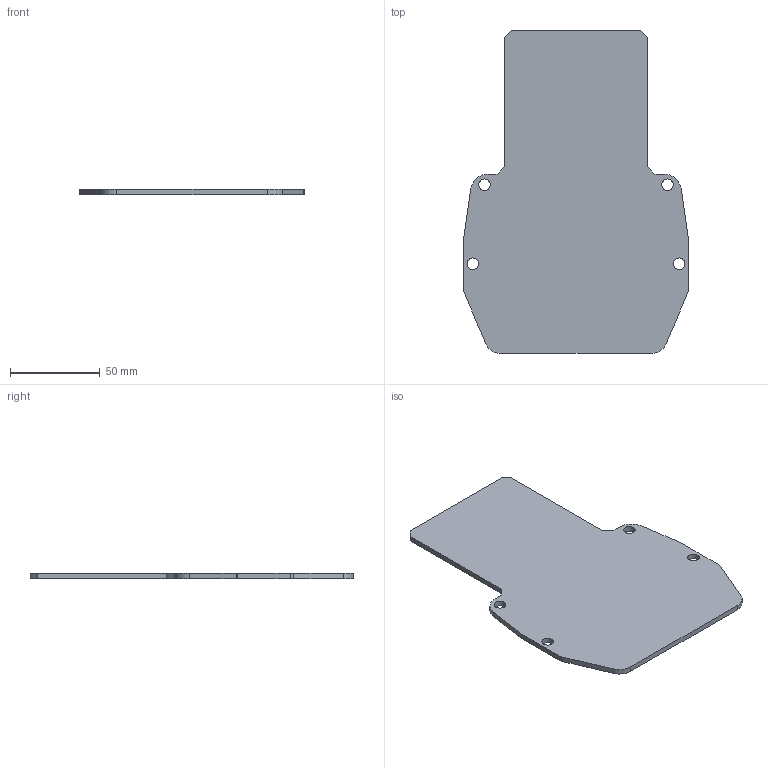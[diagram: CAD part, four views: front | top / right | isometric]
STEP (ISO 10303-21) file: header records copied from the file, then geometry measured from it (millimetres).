
FILE_DESCRIPTION(/* description */ ('Unknown'),/* implementation_level */ '2;1');
FILE_NAME(/* name */ 'MGD3 ED',/* time_stamp */ '2020-08-05T21:37:42+02:00',/* author */ ('Unknown'),/* organization */ ('Unknown'),/* preprocessor_version */ 'ST-DEVELOPER v16.7',/* originating_system */ 'DEX',/* authorisation */ $);
FILE_SCHEMA (('AUTOMOTIVE_DESIGN {1 0 10303 214 3 1 1}'));
Length unit declared in the file: millimetre
Products named in the file (1): MGD3 ED
Bounding box: 125 x 180 x 3 mm (x, y, z)
Volume: 54151 mm3; surface area: 38023.3 mm2
Topology: 1 solids, 1 shells, 32 faces, 90 edges, 60 vertices
Faces by surface type: plane 20, cylinder 12
Full cylindrical faces by diameter (mm): 6.5 x4
Entity records: 1064 total; most frequent: CARTESIAN_POINT 179, DIRECTION 176, ORIENTED_EDGE 172, EDGE_CURVE 86, LINE 62, VECTOR 62, VERTEX_POINT 60, AXIS2_PLACEMENT_3D 57
